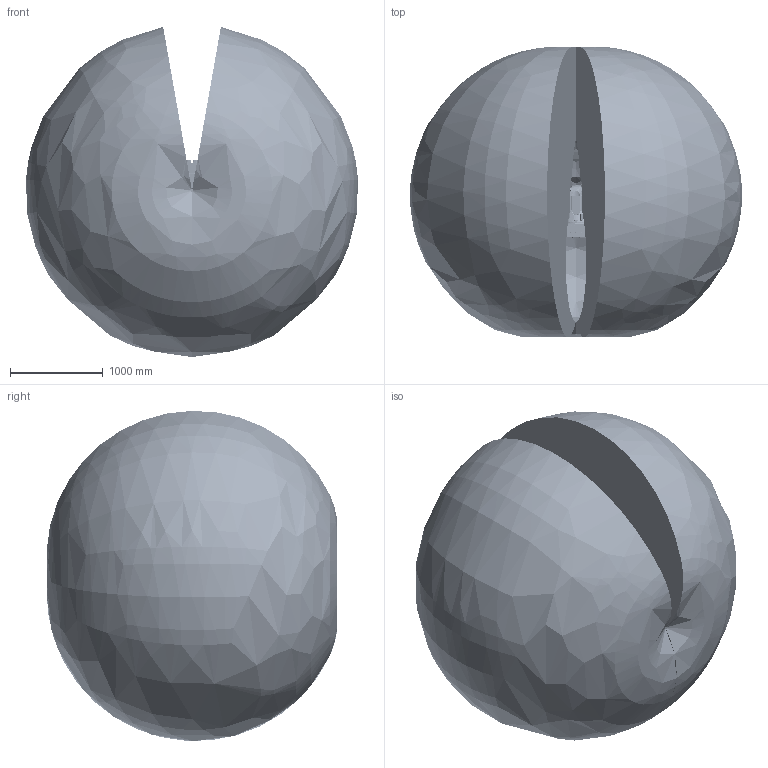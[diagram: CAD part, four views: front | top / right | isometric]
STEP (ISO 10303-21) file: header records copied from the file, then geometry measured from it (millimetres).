
FILE_DESCRIPTION((''),'2;1');
FILE_NAME('R12-1700_ASM','2023-10-16T15:22:31',('zty'),(''),'CREO PARAMETRIC BY PTC INC, 2018260','CREO PARAMETRIC BY PTC INC, 2018260','');
FILE_SCHEMA(('CONFIG_CONTROL_DESIGN','SHAPE_APPEARANCE_LAYERS_GROUPS'));
Products named in the file (11): R12-1700_BASE; R12-1700_JOINT1; R12-1700_JOINT2; R12-1700_JOINT3; R12-1700_JOINT4; R12-1700_JOINT5; R12-1700_JOINT6; R12-1700_CABLE; R12-1700_RANGE; R12-1700_RANGE_2; R12-1700_ASM
Assembly tree (10 placements, depth 2):
  R12-1700_ASM
    R12-1700_BASE
    R12-1700_JOINT1
    R12-1700_JOINT2
    R12-1700_JOINT3
    R12-1700_JOINT4
    R12-1700_JOINT5
    R12-1700_JOINT6
    R12-1700_CABLE
    R12-1700_RANGE
    R12-1700_RANGE_2
Bounding box: 3575.28 x 3132.73 x 3556.13 mm (x, y, z)
Volume: 19929164298.9 mm3; surface area: 63020202.9 mm2
Topology: 10 solids, 95 shells, 10663 faces, 27067 edges, 16763 vertices
Faces by surface type: cylinder 3210, plane 2863, bspline 2327, torus 1197, cone 871, sphere 188, extrusion 7
Entity records: 464062 total; most frequent: CARTESIAN_POINT 204163, ORIENTED_EDGE 53312, DIRECTION 46317, EDGE_CURVE 26656, AXIS2_PLACEMENT_3D 18517, VERTEX_POINT 16761, EDGE_LOOP 11437, FACE_OUTER_BOUND 10663
